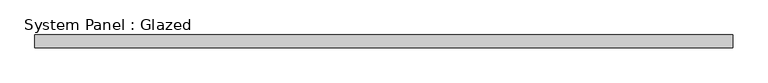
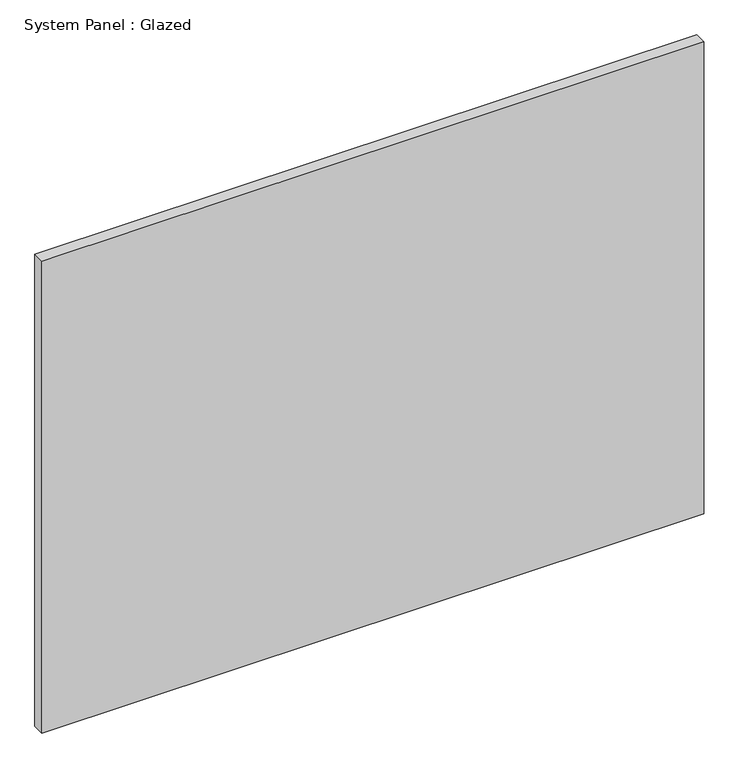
"""IFC4 building model written with IfcOpenShell, lengths in millimetres: plate geometry, System Panel : Glazed."""

from ifc_helpers import new_model, si_unit, origin, origin_with_axes, place, context, project, spatial, polyline, outline, extrude, source, transform, mapped, element, save


def system_panel_glazed_bff4cae0(model_context):
    return source(origin(), model_context, "Body", "SweptSolid", [
        extrude(outline(polyline([(688.5886914, 19.05), (-688.5886914, 19.05), (-688.5886914, 44.45), (688.5886914, 44.45), (688.5886914, 19.05)])), origin_with_axes(), (0.0, 0.0, 1.0), 1038.7193103),
    ])


if __name__ == "__main__":
    model = new_model("IFC4")
    model_context = context("Model", 3, world=origin())
    ifc_project = project(units=[si_unit("LENGTHUNIT", "METRE", prefix="MILLI")], contexts=[model_context])
    site = spatial("IfcSite", under=ifc_project)
    building = spatial("IfcBuilding", under=site)
    placement = place(None, origin())
    system_panel_glazed_shape = system_panel_glazed_bff4cae0(model_context)
    element("IfcPlate", 1, ObjectType="System Panel : Glazed", at=placement, inside=building, context=model_context, shape_type="MappedRepresentation", body=[
        mapped(system_panel_glazed_shape, transform((0.0, 0.0, 0.0), x_axis=(1.0, 0.0, 0.0), y_axis=(0.0, 1.0, 0.0), z_axis=(0.0, 0.0, 1.0))),
    ])
    save(model, "model.ifc")
